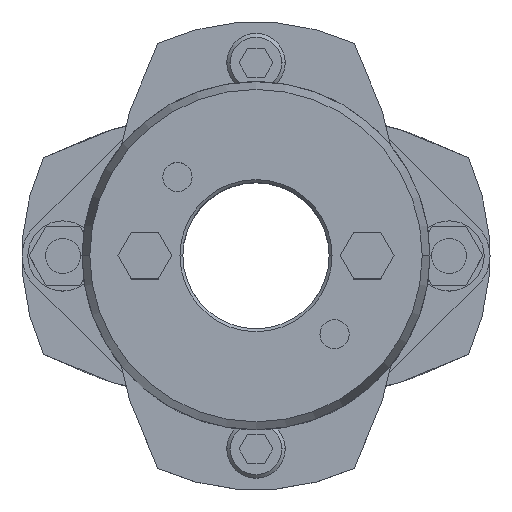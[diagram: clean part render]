
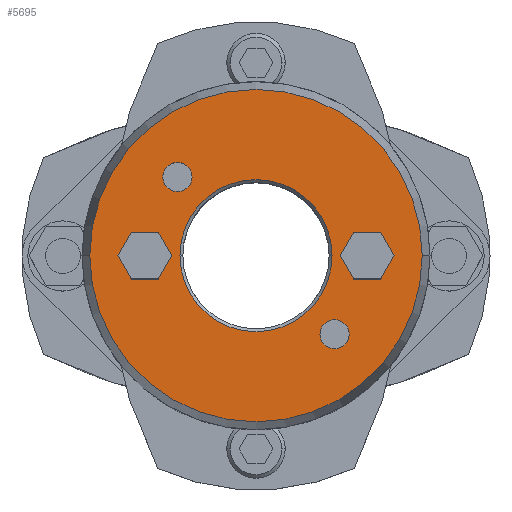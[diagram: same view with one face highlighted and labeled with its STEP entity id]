
A CAD part, top view. The second image highlights one B-rep face of the part: STEP entity #5695.
In plain terms, the highlighted planar face has unit normal (0, 0, 1).
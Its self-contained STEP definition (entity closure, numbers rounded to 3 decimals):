
#857=CARTESIAN_POINT('',(-13.,0.,35.875));
#858=VERTEX_POINT('',#857);
#874=CARTESIAN_POINT('',(13.,0.,35.875));
#875=VERTEX_POINT('',#874);
#882=CARTESIAN_POINT('',(0.,0.,35.875));
#883=DIRECTION('',(0.0,0.0,1.0));
#884=DIRECTION('',(-1.0,0.0,0.0));
#885=AXIS2_PLACEMENT_3D('',#882,#883,#884);
#886=CIRCLE('',#885,13.0);
#887=EDGE_CURVE('',#875,#858,#886,.T.);
#1003=CARTESIAN_POINT('',(28.41,0.,35.875));
#1004=VERTEX_POINT('',#1003);
#1013=CARTESIAN_POINT('',(-28.41,0.,35.875));
#1014=VERTEX_POINT('',#1013);
#1015=CARTESIAN_POINT('',(0.,0.,35.875));
#1016=DIRECTION('',(0.0,0.0,-1.0));
#1017=DIRECTION('',(1.0,0.0,0.0));
#1018=AXIS2_PLACEMENT_3D('',#1015,#1016,#1017);
#1019=CIRCLE('',#1018,28.41);
#1020=EDGE_CURVE('',#1004,#1014,#1019,.T.);
#1189=CARTESIAN_POINT('',(-15.935,13.435,35.875));
#1190=VERTEX_POINT('',#1189);
#1206=CARTESIAN_POINT('',(-10.935,13.435,35.875));
#1207=VERTEX_POINT('',#1206);
#1214=CARTESIAN_POINT('',(-13.435,13.435,35.875));
#1215=DIRECTION('',(0.0,0.0,-1.0));
#1216=DIRECTION('',(-1.0,0.0,0.0));
#1217=AXIS2_PLACEMENT_3D('',#1214,#1215,#1216);
#1218=CIRCLE('',#1217,2.5);
#1219=EDGE_CURVE('',#1190,#1207,#1218,.T.);
#1231=CARTESIAN_POINT('',(10.935,-13.435,35.875));
#1232=VERTEX_POINT('',#1231);
#1248=CARTESIAN_POINT('',(15.935,-13.435,35.875));
#1249=VERTEX_POINT('',#1248);
#1256=CARTESIAN_POINT('',(13.435,-13.435,35.875));
#1257=DIRECTION('',(0.0,0.0,-1.0));
#1258=DIRECTION('',(-1.0,0.0,0.0));
#1259=AXIS2_PLACEMENT_3D('',#1256,#1257,#1258);
#1260=CIRCLE('',#1259,2.5);
#1261=EDGE_CURVE('',#1232,#1249,#1260,.T.);
#4821=CARTESIAN_POINT('',(14.381,0.,35.875));
#4822=VERTEX_POINT('',#4821);
#4829=CARTESIAN_POINT('',(16.691,-4.,35.875));
#4830=VERTEX_POINT('',#4829);
#4831=CARTESIAN_POINT('',(16.691,-4.,35.875));
#4832=DIRECTION('',(-0.5,0.866,0.0));
#4833=VECTOR('',#4832,4.619);
#4834=LINE('',#4831,#4833);
#4835=EDGE_CURVE('',#4830,#4822,#4834,.T.);
#4859=CARTESIAN_POINT('',(16.691,4.,35.875));
#4860=VERTEX_POINT('',#4859);
#4867=CARTESIAN_POINT('',(14.381,0.,35.875));
#4868=DIRECTION('',(0.5,0.866,0.0));
#4869=VECTOR('',#4868,4.619);
#4870=LINE('',#4867,#4869);
#4871=EDGE_CURVE('',#4822,#4860,#4870,.T.);
#4890=CARTESIAN_POINT('',(21.309,4.,35.875));
#4891=VERTEX_POINT('',#4890);
#4898=CARTESIAN_POINT('',(16.691,4.,35.875));
#4899=DIRECTION('',(1.0,0.0,0.0));
#4900=VECTOR('',#4899,4.619);
#4901=LINE('',#4898,#4900);
#4902=EDGE_CURVE('',#4860,#4891,#4901,.T.);
#4921=CARTESIAN_POINT('',(23.619,0.,35.875));
#4922=VERTEX_POINT('',#4921);
#4929=CARTESIAN_POINT('',(21.309,4.,35.875));
#4930=DIRECTION('',(0.5,-0.866,0.0));
#4931=VECTOR('',#4930,4.619);
#4932=LINE('',#4929,#4931);
#4933=EDGE_CURVE('',#4891,#4922,#4932,.T.);
#4952=CARTESIAN_POINT('',(21.309,-4.,35.875));
#4953=VERTEX_POINT('',#4952);
#4960=CARTESIAN_POINT('',(23.619,0.,35.875));
#4961=DIRECTION('',(-0.5,-0.866,0.0));
#4962=VECTOR('',#4961,4.619);
#4963=LINE('',#4960,#4962);
#4964=EDGE_CURVE('',#4922,#4953,#4963,.T.);
#4982=CARTESIAN_POINT('',(21.309,-4.,35.875));
#4983=DIRECTION('',(-1.0,0.0,0.0));
#4984=VECTOR('',#4983,4.619);
#4985=LINE('',#4982,#4984);
#4986=EDGE_CURVE('',#4953,#4830,#4985,.T.);
#5021=CARTESIAN_POINT('',(-23.619,0.,35.875));
#5022=VERTEX_POINT('',#5021);
#5029=CARTESIAN_POINT('',(-21.309,-4.,35.875));
#5030=VERTEX_POINT('',#5029);
#5031=CARTESIAN_POINT('',(-21.309,-4.,35.875));
#5032=DIRECTION('',(-0.5,0.866,0.0));
#5033=VECTOR('',#5032,4.619);
#5034=LINE('',#5031,#5033);
#5035=EDGE_CURVE('',#5030,#5022,#5034,.T.);
#5059=CARTESIAN_POINT('',(-21.309,4.,35.875));
#5060=VERTEX_POINT('',#5059);
#5067=CARTESIAN_POINT('',(-23.619,0.,35.875));
#5068=DIRECTION('',(0.5,0.866,0.0));
#5069=VECTOR('',#5068,4.619);
#5070=LINE('',#5067,#5069);
#5071=EDGE_CURVE('',#5022,#5060,#5070,.T.);
#5090=CARTESIAN_POINT('',(-16.691,4.,35.875));
#5091=VERTEX_POINT('',#5090);
#5098=CARTESIAN_POINT('',(-21.309,4.,35.875));
#5099=DIRECTION('',(1.0,0.0,0.0));
#5100=VECTOR('',#5099,4.619);
#5101=LINE('',#5098,#5100);
#5102=EDGE_CURVE('',#5060,#5091,#5101,.T.);
#5121=CARTESIAN_POINT('',(-14.381,0.,35.875));
#5122=VERTEX_POINT('',#5121);
#5129=CARTESIAN_POINT('',(-16.691,4.,35.875));
#5130=DIRECTION('',(0.5,-0.866,0.0));
#5131=VECTOR('',#5130,4.619);
#5132=LINE('',#5129,#5131);
#5133=EDGE_CURVE('',#5091,#5122,#5132,.T.);
#5152=CARTESIAN_POINT('',(-16.691,-4.,35.875));
#5153=VERTEX_POINT('',#5152);
#5160=CARTESIAN_POINT('',(-14.381,0.,35.875));
#5161=DIRECTION('',(-0.5,-0.866,0.0));
#5162=VECTOR('',#5161,4.619);
#5163=LINE('',#5160,#5162);
#5164=EDGE_CURVE('',#5122,#5153,#5163,.T.);
#5182=CARTESIAN_POINT('',(-16.691,-4.,35.875));
#5183=DIRECTION('',(-1.0,0.0,0.0));
#5184=VECTOR('',#5183,4.619);
#5185=LINE('',#5182,#5184);
#5186=EDGE_CURVE('',#5153,#5030,#5185,.T.);
#5212=CARTESIAN_POINT('',(13.435,-13.435,35.875));
#5213=DIRECTION('',(0.0,0.0,-1.0));
#5214=DIRECTION('',(-1.0,0.0,0.0));
#5215=AXIS2_PLACEMENT_3D('',#5212,#5213,#5214);
#5216=CIRCLE('',#5215,2.5);
#5217=EDGE_CURVE('',#1249,#1232,#5216,.T.);
#5246=CARTESIAN_POINT('',(-13.435,13.435,35.875));
#5247=DIRECTION('',(0.0,0.0,-1.0));
#5248=DIRECTION('',(-1.0,0.0,0.0));
#5249=AXIS2_PLACEMENT_3D('',#5246,#5247,#5248);
#5250=CIRCLE('',#5249,2.5);
#5251=EDGE_CURVE('',#1207,#1190,#5250,.T.);
#5642=CARTESIAN_POINT('',(0.,0.,35.875));
#5643=DIRECTION('',(0.0,0.0,-1.0));
#5644=DIRECTION('',(1.0,0.0,0.0));
#5645=AXIS2_PLACEMENT_3D('',#5642,#5643,#5644);
#5646=CIRCLE('',#5645,28.41);
#5647=EDGE_CURVE('',#1014,#1004,#5646,.T.);
#5652=CARTESIAN_POINT('',(-2.364,0.,35.875));
#5653=DIRECTION('',(0.0,0.0,1.0));
#5654=DIRECTION('',(-1.0,0.0,0.0));
#5655=AXIS2_PLACEMENT_3D('',#5652,#5653,#5654);
#5656=PLANE('',#5655);
#5657=ORIENTED_EDGE('',*,*,#5647,.F.);
#5658=ORIENTED_EDGE('',*,*,#1020,.F.);
#5659=EDGE_LOOP('',(#5657,#5658));
#5660=FACE_OUTER_BOUND('',#5659,.T.);
#5661=ORIENTED_EDGE('',*,*,#4835,.T.);
#5662=ORIENTED_EDGE('',*,*,#4871,.T.);
#5663=ORIENTED_EDGE('',*,*,#4902,.T.);
#5664=ORIENTED_EDGE('',*,*,#4933,.T.);
#5665=ORIENTED_EDGE('',*,*,#4964,.T.);
#5666=ORIENTED_EDGE('',*,*,#4986,.T.);
#5667=EDGE_LOOP('',(#5661,#5662,#5663,#5664,#5665,#5666));
#5668=FACE_BOUND('',#5667,.T.);
#5669=ORIENTED_EDGE('',*,*,#5035,.T.);
#5670=ORIENTED_EDGE('',*,*,#5071,.T.);
#5671=ORIENTED_EDGE('',*,*,#5102,.T.);
#5672=ORIENTED_EDGE('',*,*,#5133,.T.);
#5673=ORIENTED_EDGE('',*,*,#5164,.T.);
#5674=ORIENTED_EDGE('',*,*,#5186,.T.);
#5675=EDGE_LOOP('',(#5669,#5670,#5671,#5672,#5673,#5674));
#5676=FACE_BOUND('',#5675,.T.);
#5677=ORIENTED_EDGE('',*,*,#1261,.T.);
#5678=ORIENTED_EDGE('',*,*,#5217,.T.);
#5679=EDGE_LOOP('',(#5677,#5678));
#5680=FACE_BOUND('',#5679,.T.);
#5681=ORIENTED_EDGE('',*,*,#1219,.T.);
#5682=ORIENTED_EDGE('',*,*,#5251,.T.);
#5683=EDGE_LOOP('',(#5681,#5682));
#5684=FACE_BOUND('',#5683,.T.);
#5685=ORIENTED_EDGE('',*,*,#887,.F.);
#5686=CARTESIAN_POINT('',(0.,0.,35.875));
#5687=DIRECTION('',(0.0,0.0,1.0));
#5688=DIRECTION('',(-1.0,0.0,0.0));
#5689=AXIS2_PLACEMENT_3D('',#5686,#5687,#5688);
#5690=CIRCLE('',#5689,13.0);
#5691=EDGE_CURVE('',#858,#875,#5690,.T.);
#5692=ORIENTED_EDGE('',*,*,#5691,.F.);
#5693=EDGE_LOOP('',(#5685,#5692));
#5694=FACE_BOUND('',#5693,.T.);
#5695=ADVANCED_FACE('',(#5660,#5668,#5676,#5680,#5684,#5694),#5656,.T.);
